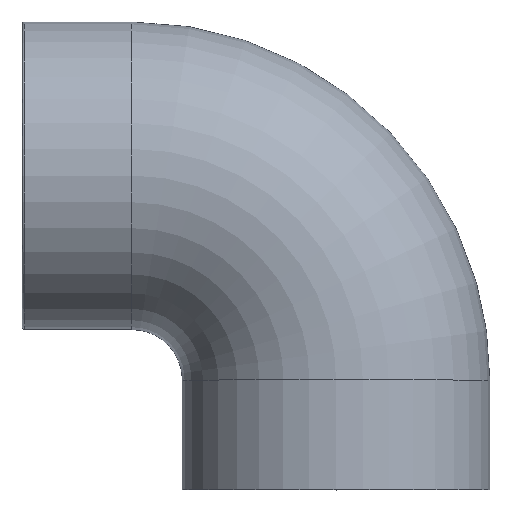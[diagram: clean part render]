
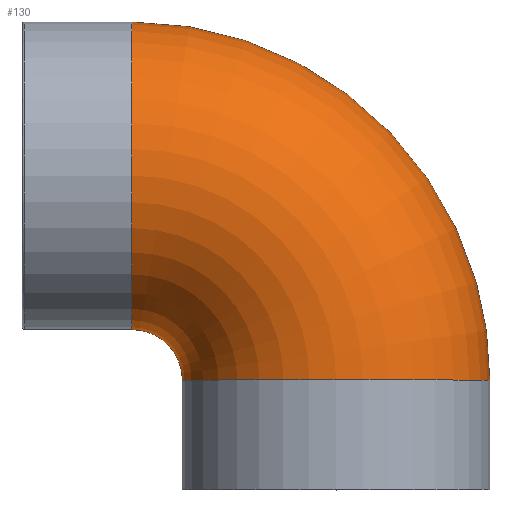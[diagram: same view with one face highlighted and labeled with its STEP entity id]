
A CAD part, top view. The second image highlights one B-rep face of the part: STEP entity #130.
In plain terms, the highlighted toroidal (fillet/blend) face has major radius 48.5 mm and minor radius 36.5 mm.
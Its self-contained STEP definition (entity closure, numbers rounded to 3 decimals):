
#28=FACE_BOUND('',#56,.T.);
#39=FACE_OUTER_BOUND('',#55,.T.);
#55=EDGE_LOOP('',(#110));
#56=EDGE_LOOP('',(#111));
#73=CIRCLE('',#150,36.5);
#74=CIRCLE('',#151,36.5);
#84=VERTEX_POINT('',#225);
#85=VERTEX_POINT('',#227);
#95=EDGE_CURVE('',#84,#84,#73,.T.);
#96=EDGE_CURVE('',#85,#85,#74,.T.);
#110=ORIENTED_EDGE('',*,*,#95,.T.);
#111=ORIENTED_EDGE('',*,*,#96,.T.);
#123=TOROIDAL_SURFACE('',#149,48.5,36.5);
#130=ADVANCED_FACE('',(#39,#28),#123,.T.);
#149=AXIS2_PLACEMENT_3D('',#224,#184,#185);
#150=AXIS2_PLACEMENT_3D('',#226,#186,#187);
#151=AXIS2_PLACEMENT_3D('',#228,#188,#189);
#184=DIRECTION('center_axis',(0.,0.,-1.));
#185=DIRECTION('ref_axis',(-1.,0.,0.));
#186=DIRECTION('center_axis',(0.,1.,0.));
#187=DIRECTION('ref_axis',(0.,0.,-1.));
#188=DIRECTION('center_axis',(1.,0.,0.));
#189=DIRECTION('ref_axis',(0.,0.,-1.));
#224=CARTESIAN_POINT('Origin',(-48.5,-48.5,0.));
#225=CARTESIAN_POINT('',(0.,-48.5,36.5));
#226=CARTESIAN_POINT('Origin',(0.,-48.5,0.));
#227=CARTESIAN_POINT('',(-48.5,0.,-36.5));
#228=CARTESIAN_POINT('Origin',(-48.5,0.,0.));
